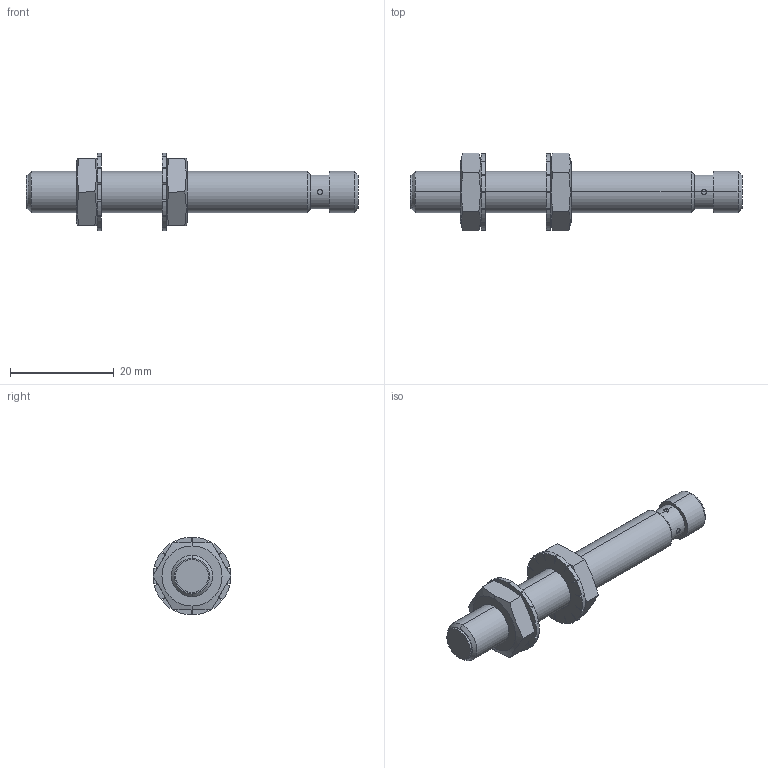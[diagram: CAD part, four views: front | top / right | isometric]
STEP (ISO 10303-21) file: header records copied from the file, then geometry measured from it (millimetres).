
FILE_DESCRIPTION (( 'STEP AP203' ), '1' );
FILE_NAME ('Bi-G08-X-V1.step', '2015-04-23T18:36:13', ( 'Turck User' ), ( '' ), 'SwSTEP 2.0', 'SolidWorks 2014', '' );
FILE_SCHEMA (( 'CONFIG_CONTROL_DESIGN' ));
Length unit declared in the file: millimetre
Products named in the file (2): Bi-G08-X-V1
Bounding box: 64 x 15.01 x 15 mm (x, y, z)
Volume: 4019.3 mm3; surface area: 3377.4 mm2
Topology: 5 solids, 5 shells, 178 faces, 451 edges, 292 vertices
Faces by surface type: plane 85, cylinder 65, cone 28
Entity records: 5662 total; most frequent: CARTESIAN_POINT 1179, ORIENTED_EDGE 902, DIRECTION 895, EDGE_CURVE 451, AXIS2_PLACEMENT_3D 312, VERTEX_POINT 292, VECTOR 271, LINE 271
